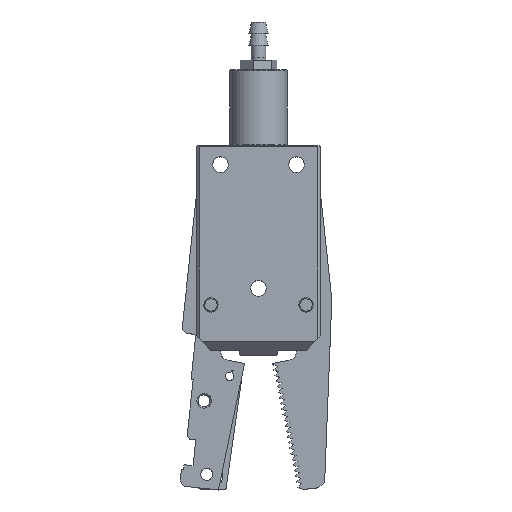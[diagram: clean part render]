
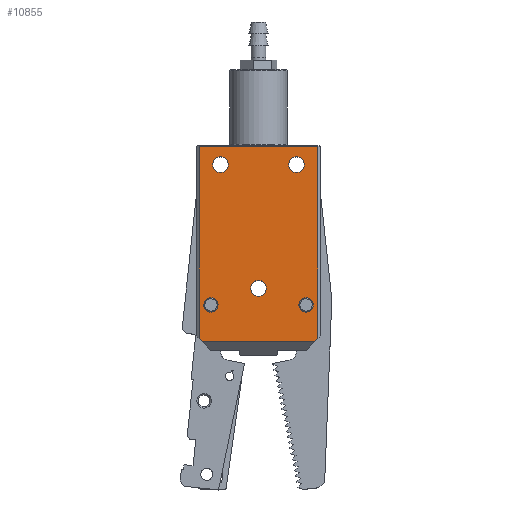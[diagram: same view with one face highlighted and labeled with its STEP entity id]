
A CAD part, top view. The second image highlights one B-rep face of the part: STEP entity #10855.
In plain terms, the highlighted planar face has unit normal (0, 0, 1).
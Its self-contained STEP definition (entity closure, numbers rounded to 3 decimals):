
#5866=PLANE('',#19439);
#7434=LINE('',#24049,#9147);
#7435=LINE('',#24052,#9148);
#7436=LINE('',#24054,#9149);
#7437=LINE('',#24056,#9150);
#7438=LINE('',#24058,#9151);
#7439=LINE('',#24060,#9152);
#9147=VECTOR('',#20430,1.);
#9148=VECTOR('',#20431,1.);
#9149=VECTOR('',#20432,1.);
#9150=VECTOR('',#20433,1.);
#9151=VECTOR('',#20434,1.);
#9152=VECTOR('',#20435,1.);
#10855=ADVANCED_FACE('',(#11723,#11724,#11725,#11726,#11727,#11728),#5866,
 .F.);
#11723=FACE_BOUND('',#11826,.T.);
#11724=FACE_BOUND('',#11827,.T.);
#11725=FACE_BOUND('',#11828,.T.);
#11726=FACE_BOUND('',#11829,.T.);
#11727=FACE_BOUND('',#11830,.T.);
#11728=FACE_BOUND('',#11831,.T.);
#11826=EDGE_LOOP('',(#12738));
#11827=EDGE_LOOP('',(#12739));
#11828=EDGE_LOOP('',(#12740));
#11829=EDGE_LOOP('',(#12741));
#11830=EDGE_LOOP('',(#12742));
#11831=EDGE_LOOP('',(#12743,#12744,#12745,#12746,#12747,#12748));
#12738=ORIENTED_EDGE('',*,*,#17463,.F.);
#12739=ORIENTED_EDGE('',*,*,#17465,.F.);
#12740=ORIENTED_EDGE('',*,*,#17467,.F.);
#12741=ORIENTED_EDGE('',*,*,#17469,.F.);
#12742=ORIENTED_EDGE('',*,*,#17461,.F.);
#12743=ORIENTED_EDGE('',*,*,#17495,.T.);
#12744=ORIENTED_EDGE('',*,*,#17496,.F.);
#12745=ORIENTED_EDGE('',*,*,#17497,.T.);
#12746=ORIENTED_EDGE('',*,*,#17498,.F.);
#12747=ORIENTED_EDGE('',*,*,#17499,.F.);
#12748=ORIENTED_EDGE('',*,*,#17500,.F.);
#16402=VERTEX_POINT('',#23943);
#16404=VERTEX_POINT('',#23948);
#16406=VERTEX_POINT('',#23953);
#16408=VERTEX_POINT('',#23958);
#16410=VERTEX_POINT('',#23963);
#16436=VERTEX_POINT('',#24050);
#16437=VERTEX_POINT('',#24051);
#16438=VERTEX_POINT('',#24053);
#16439=VERTEX_POINT('',#24055);
#16440=VERTEX_POINT('',#24057);
#16441=VERTEX_POINT('',#24059);
#17461=EDGE_CURVE('',#16402,#16402,#19299,.T.);
#17463=EDGE_CURVE('',#16404,#16404,#19301,.T.);
#17465=EDGE_CURVE('',#16406,#16406,#19303,.T.);
#17467=EDGE_CURVE('',#16408,#16408,#19305,.T.);
#17469=EDGE_CURVE('',#16410,#16410,#19307,.T.);
#17495=EDGE_CURVE('',#16436,#16437,#7434,.T.);
#17496=EDGE_CURVE('',#16438,#16437,#7435,.T.);
#17497=EDGE_CURVE('',#16438,#16439,#7436,.T.);
#17498=EDGE_CURVE('',#16440,#16439,#7437,.T.);
#17499=EDGE_CURVE('',#16441,#16440,#7438,.T.);
#17500=EDGE_CURVE('',#16436,#16441,#7439,.T.);
#19299=CIRCLE('',#19410,1.5);
#19301=CIRCLE('',#19413,1.65);
#19303=CIRCLE('',#19416,1.65);
#19305=CIRCLE('',#19419,1.65);
#19307=CIRCLE('',#19422,1.5);
#19410=AXIS2_PLACEMENT_3D('',#23942,#20364,#20365);
#19413=AXIS2_PLACEMENT_3D('',#23947,#20370,#20371);
#19416=AXIS2_PLACEMENT_3D('',#23952,#20376,#20377);
#19419=AXIS2_PLACEMENT_3D('',#23957,#20382,#20383);
#19422=AXIS2_PLACEMENT_3D('',#23962,#20388,#20389);
#19439=AXIS2_PLACEMENT_3D('',#24061,#20436,#20437);
#20364=DIRECTION('',(0.,0.,1.));
#20365=DIRECTION('',(0.,1.,0.));
#20370=DIRECTION('',(0.,0.,1.));
#20371=DIRECTION('',(0.,1.,0.));
#20376=DIRECTION('',(0.,0.,1.));
#20377=DIRECTION('',(0.,1.,0.));
#20382=DIRECTION('',(0.,0.,1.));
#20383=DIRECTION('',(0.,1.,0.));
#20388=DIRECTION('',(0.,0.,1.));
#20389=DIRECTION('',(0.,1.,0.));
#20430=DIRECTION('',(0.707,-0.707,0.));
#20431=DIRECTION('',(-1.,0.,0.));
#20432=DIRECTION('',(0.707,0.707,0.));
#20433=DIRECTION('',(0.,-1.,0.));
#20434=DIRECTION('',(1.,0.,0.));
#20435=DIRECTION('',(0.,1.,0.));
#20436=DIRECTION('',(0.,0.,-1.));
#20437=DIRECTION('',(1.,0.,0.));
#23942=CARTESIAN_POINT('',(-19.019,-12.921,66.7));
#23943=CARTESIAN_POINT('',(-19.019,-11.421,66.7));
#23947=CARTESIAN_POINT('',(-9.019,-9.421,66.7));
#23948=CARTESIAN_POINT('',(-9.019,-7.771,66.7));
#23952=CARTESIAN_POINT('',(-17.019,16.579,66.7));
#23953=CARTESIAN_POINT('',(-17.019,18.229,66.7));
#23957=CARTESIAN_POINT('',(-1.019,16.579,66.7));
#23958=CARTESIAN_POINT('',(-1.019,18.229,66.7));
#23962=CARTESIAN_POINT('',(0.981,-12.921,66.7));
#23963=CARTESIAN_POINT('',(0.981,-11.421,66.7));
#24049=CARTESIAN_POINT('',(-20.519,-20.921,66.7));
#24050=CARTESIAN_POINT('',(-21.519,-19.921,66.7));
#24051=CARTESIAN_POINT('',(-20.869,-20.571,66.7));
#24052=CARTESIAN_POINT('',(-9.019,-20.571,66.7));
#24053=CARTESIAN_POINT('',(2.831,-20.571,66.7));
#24054=CARTESIAN_POINT('',(2.481,-20.921,66.7));
#24055=CARTESIAN_POINT('',(3.481,-19.921,66.7));
#24056=CARTESIAN_POINT('',(3.481,-0.096,66.7));
#24057=CARTESIAN_POINT('',(3.481,20.379,66.7));
#24058=CARTESIAN_POINT('',(-9.019,20.379,66.7));
#24059=CARTESIAN_POINT('',(-21.519,20.379,66.7));
#24060=CARTESIAN_POINT('',(-21.519,-0.096,66.7));
#24061=CARTESIAN_POINT('',(3.481,-20.571,66.7));
